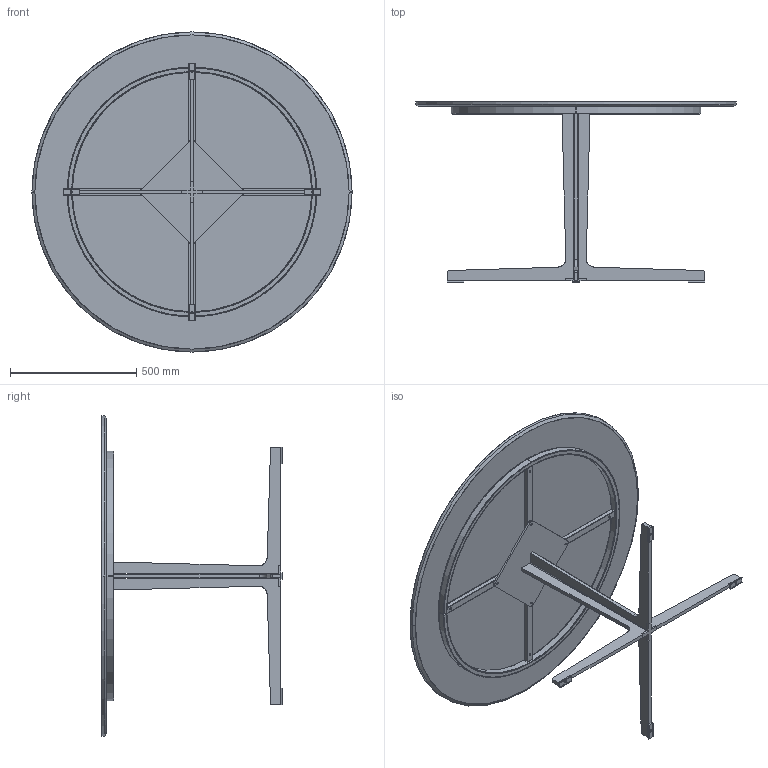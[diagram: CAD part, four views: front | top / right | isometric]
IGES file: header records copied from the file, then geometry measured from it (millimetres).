
Start section: SolidWorks IGES file using analytic representation for surfaces
Global section: file name: W:\design\CKR\spilt\IGS\DIAM127.IGS; native system: SolidWorks 2010; preprocessor: SolidWorks 2010; author: PC20; date: 150212.184809; units: millimetre
Bounding box: 1270 x 717 x 1270 mm (x, y, z)
Surface area: 4202936 mm2 (no closed solid volume)
Topology: 0 solids, 0 shells, 378 faces, 9084 edges, 11074 vertices
Faces by surface type: bspline 220, revolution 158
